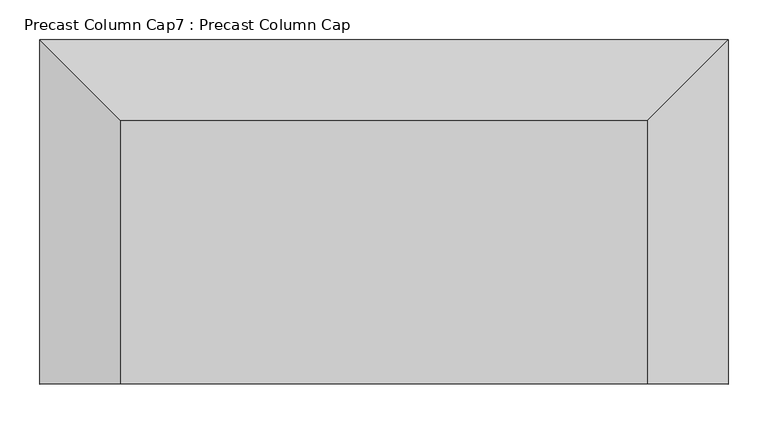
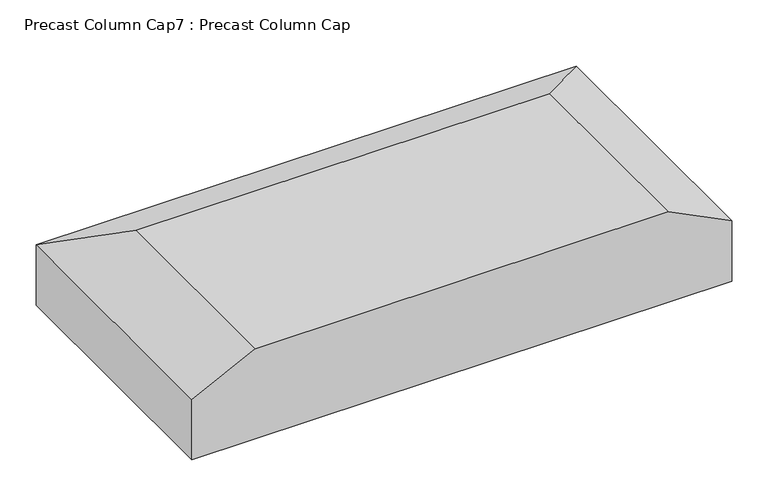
"""IFC4 building model written with IfcOpenShell, lengths in millimetres: proxy geometry, Precast Column Cap7 : Precast Column Cap."""

from ifc_helpers import new_model, si_unit, origin, place, context, project, spatial, faceted_brep, source, transform, mapped, element, save


def precast_column_cap7_precast_column_cap_b482682e(model_context):
    return source(origin(), model_context, "Body", "Brep", [
        faceted_brep([(-4358.632143, 12639.8010405, 33070.8), (-3698.232143, 12639.8010405, 33070.8), (-3698.232143, 12970.0010405, 33070.8), (-4358.632143, 12970.0010405, 33070.8), (-4460.232143, 12639.8010405, 33020.0), (-4460.232143, 12639.8010405, 32918.4), (-3596.632143, 12639.8010405, 32918.4), (-3596.632143, 12639.8010405, 33020.0), (-3596.632143, 13071.6010405, 33020.0), (-4460.232143, 13071.6010405, 33020.0), (-4460.232143, 13071.6010405, 32918.4), (-3596.632143, 13071.6010405, 32918.4)], [[[0, 1, 2, 3]], [[1, 0, 4, 5, 6, 7]], [[2, 1, 7, 8]], [[3, 2, 8, 9]], [[0, 3, 9, 4]], [[10, 11, 6, 5]], [[10, 5, 4, 9]], [[6, 11, 8, 7]], [[11, 10, 9, 8]]]),
    ])


if __name__ == "__main__":
    model = new_model("IFC4")
    model_context = context("Model", 3, world=origin())
    ifc_project = project(units=[si_unit("LENGTHUNIT", "METRE", prefix="MILLI")], contexts=[model_context])
    site = spatial("IfcSite", under=ifc_project)
    building = spatial("IfcBuilding", under=site)
    placement = place(None, origin())
    precast_column_cap7_precast_column_cap_shape = precast_column_cap7_precast_column_cap_b482682e(model_context)
    element("IfcBuildingElementProxy", 1, Name="Precast Column Cap7 : Precast Column Cap", ObjectType="Precast Column Cap7 : Precast Column Cap", at=placement, inside=building, context=model_context, shape_type="MappedRepresentation", body=[
        mapped(precast_column_cap7_precast_column_cap_shape, transform((0.0, 0.0, 0.0), x_axis=(1.0, 0.0, 0.0), y_axis=(0.0, 1.0, 0.0), z_axis=(0.0, 0.0, 1.0))),
    ])
    save(model, "model.ifc")
